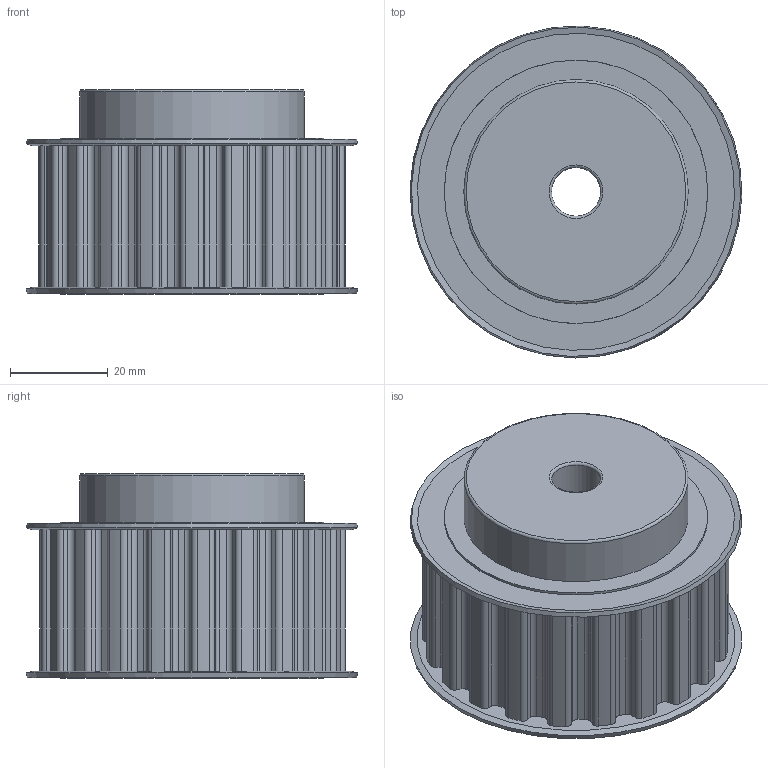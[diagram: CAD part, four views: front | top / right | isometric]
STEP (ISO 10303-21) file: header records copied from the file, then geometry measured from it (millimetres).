
FILE_DESCRIPTION(/* description */ (''),/* implementation_level */ '2;1');
FILE_NAME(/* name */ 'C:\Users\jleeuw\Desktop\Stock Pulleys\Step\LS 42 L_21-2 hub 46x10 dv=10.iam.stp',/* time_stamp */ '2014-12-11T13:07:01-05:00',/* author */ ('jleeuw'),/* organization */ (''),/* preprocessor_version */ 'ST-DEVELOPER v15.6',/* originating_system */ 'Autodesk Inventor 2015',/* authorisation */ '');
FILE_SCHEMA (('CONFIG_CONTROL_DESIGN'));
Length unit declared in the file: millimetre
Products named in the file (3): LS 42 L_21-2 hub 46x10 dv=10; BS1-043
Bounding box: 68 x 68 x 42 mm (x, y, z)
Volume: 106233.4 mm3; surface area: 22210.6 mm2
Topology: 3 solids, 3 shells, 192 faces, 543 edges, 360 vertices
Faces by surface type: cylinder 111, plane 72, cone 6, torus 3
Full cylindrical faces by diameter (mm): 10 x1, 46 x1, 54 x4
Entity records: 6189 total; most frequent: DIRECTION 1132, CARTESIAN_POINT 1066, ORIENTED_EDGE 1042, EDGE_CURVE 521, AXIS2_PLACEMENT_3D 419, VERTEX_POINT 353, LINE 294, VECTOR 294
